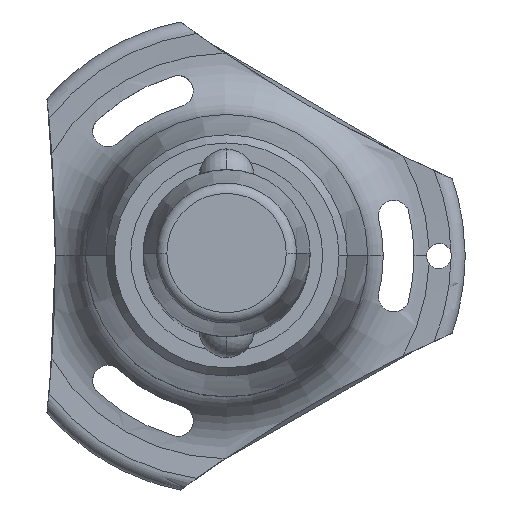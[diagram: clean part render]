
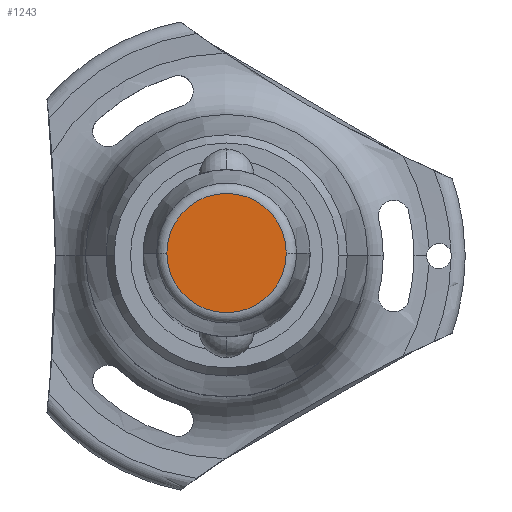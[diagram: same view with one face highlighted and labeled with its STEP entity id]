
A CAD part, top view. The second image highlights one B-rep face of the part: STEP entity #1243.
In plain terms, the highlighted planar face has unit normal (0, 0, 1).
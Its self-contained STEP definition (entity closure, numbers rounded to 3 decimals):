
#62 = DIRECTION ( 'NONE',  ( 1., 0., 0. ) ) ;
#159 = DIRECTION ( 'NONE',  ( 1., 0., 0. ) ) ;
#508 = VERTEX_POINT ( 'NONE', #2553 ) ;
#651 = AXIS2_PLACEMENT_3D ( 'NONE', #1971, #1310, #2669 ) ;
#661 = EDGE_LOOP ( 'NONE', ( #1430, #1175 ) ) ;
#716 = EDGE_CURVE ( 'NONE', #508, #945, #1066, .T. ) ;
#834 = EDGE_CURVE ( 'NONE', #945, #508, #1254, .T. ) ;
#945 = VERTEX_POINT ( 'NONE', #1920 ) ;
#1066 = CIRCLE ( 'NONE', #2465, 7.144 ) ;
#1137 = PLANE ( 'NONE',  #651 ) ;
#1175 = ORIENTED_EDGE ( 'NONE', *, *, #716, .T. ) ;
#1243 = ADVANCED_FACE ( 'NONE', ( #2466 ), #1137, .T. ) ;
#1254 = CIRCLE ( 'NONE', #1295, 7.144 ) ;
#1295 = AXIS2_PLACEMENT_3D ( 'NONE', #2820, #1716, #159 ) ;
#1310 = DIRECTION ( 'NONE',  ( 0., 0., 1. ) ) ;
#1430 = ORIENTED_EDGE ( 'NONE', *, *, #834, .T. ) ;
#1716 = DIRECTION ( 'NONE',  ( 0., 0., 1. ) ) ;
#1858 = CARTESIAN_POINT ( 'NONE',  ( 0., 0., 20.5 ) ) ;
#1920 = CARTESIAN_POINT ( 'NONE',  ( 7.144, 0., 20.5 ) ) ;
#1971 = CARTESIAN_POINT ( 'NONE',  ( 0., 0., 20.5 ) ) ;
#2465 = AXIS2_PLACEMENT_3D ( 'NONE', #1858, #2560, #62 ) ;
#2466 = FACE_OUTER_BOUND ( 'NONE', #661, .T. ) ;
#2553 = CARTESIAN_POINT ( 'NONE',  ( -7.144, 0., 20.5 ) ) ;
#2560 = DIRECTION ( 'NONE',  ( 0., 0., 1. ) ) ;
#2669 = DIRECTION ( 'NONE',  ( 1., 0., 0. ) ) ;
#2820 = CARTESIAN_POINT ( 'NONE',  ( 0., 0., 20.5 ) ) ;
